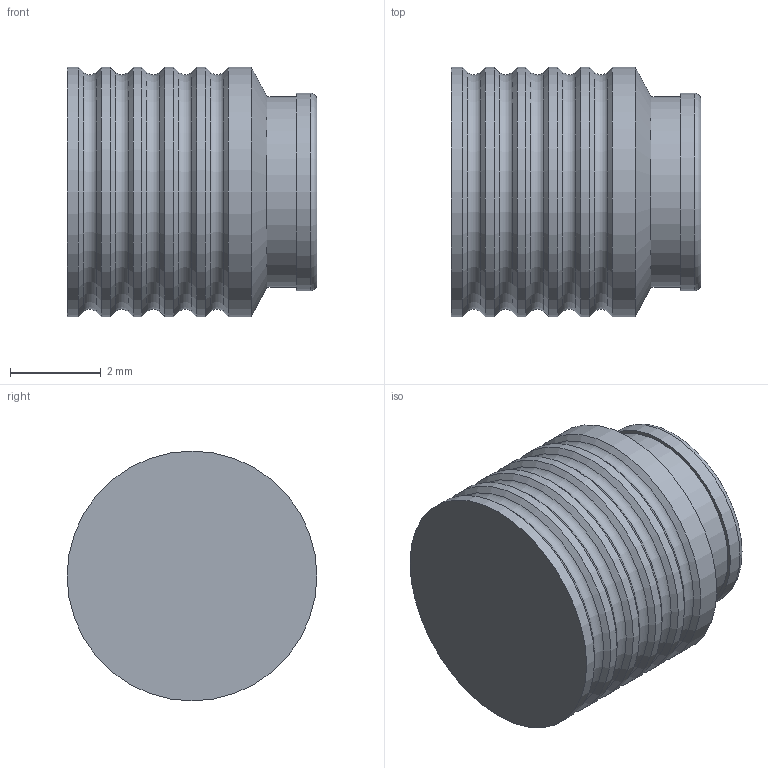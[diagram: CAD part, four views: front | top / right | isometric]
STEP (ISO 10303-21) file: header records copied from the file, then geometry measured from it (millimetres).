
FILE_DESCRIPTION(/* description */ ('LEE ORIFICE, 5.5mm, REVERSE, GAS'),/* implementation_level */ '2;1');
FILE_NAME(/* name */ '\\ABSOLUTE\SmWork\Vernon\RIGR5551XXXS.stp',/* time_stamp */ '2021-03-23T14:42:38-04:00',/* author */ ('VernonJ'),/* organization */ (''),/* preprocessor_version */ 'ST-DEVELOPER v18',/* originating_system */ 'Autodesk Inventor 2020',/* authorisation */ '');
FILE_SCHEMA (('AUTOMOTIVE_DESIGN { 1 0 10303 214 3 1 1 }'));
Length unit declared in the file: millimetre
Products named in the file (1): RIGR5551XXXS
Bounding box: 5.5 x 5.5 x 5.5 mm (x, y, z)
Volume: 113.7 mm3; surface area: 143.4 mm2
Topology: 1 solids, 1 shells, 28 faces, 90 edges, 65 vertices
Faces by surface type: cone 11, cylinder 8, torus 6, plane 3
Full cylindrical faces by diameter (mm): 4.2 x1, 4.35 x1, 5.5 x6
Entity records: 1106 total; most frequent: DIRECTION 219, CARTESIAN_POINT 184, ORIENTED_EDGE 180, AXIS2_PLACEMENT_3D 100, EDGE_CURVE 90, CIRCLE 71, VERTEX_POINT 65, EDGE_LOOP 29
